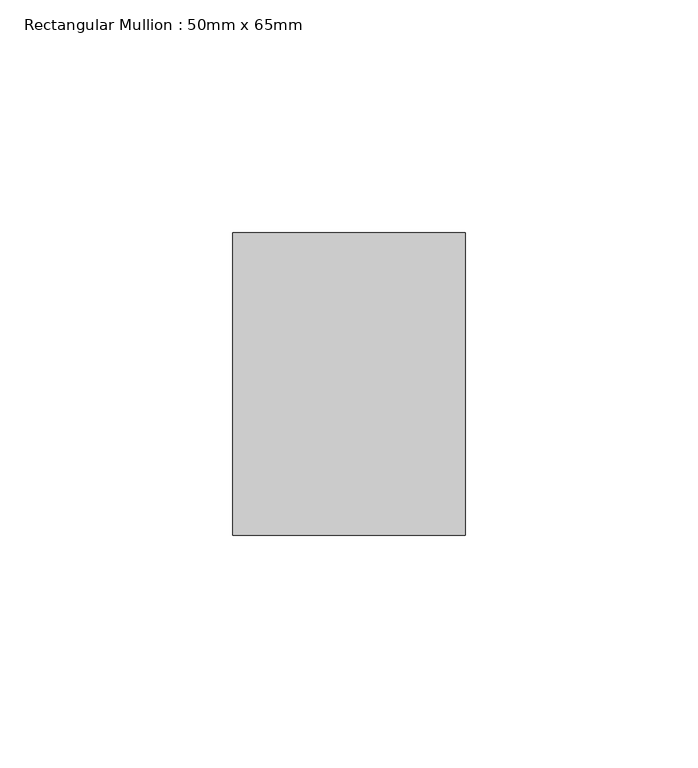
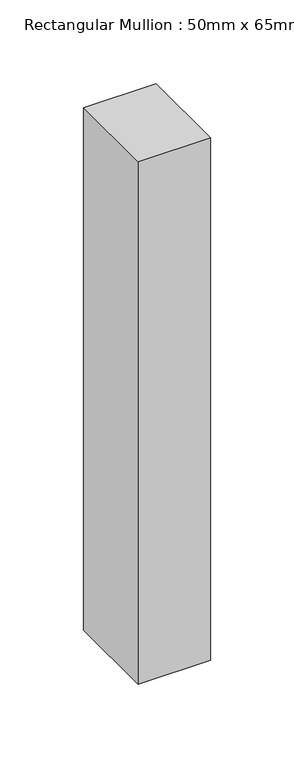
"""IFC4 building model written with IfcOpenShell, lengths in millimetres: member geometry, Rectangular Mullion : 50mm x 65mm."""

from ifc_helpers import new_model, si_unit, frame, origin, place, context, project, spatial, polyline, outline, extrude, source, transform, mapped, element, save


def rectangular_mullion_50mm_x_65mm_06ddfb15(model_context):
    return source(origin(), model_context, "Body", "SweptSolid", [
        extrude(outline(polyline([(25.0, 32.5), (25.0, -32.5), (-25.0, -32.5), (-25.0, 32.5), (25.0, 32.5)])), frame((0.0, 0.0, -380.8658889), z_axis=(0.0, 0.0, 1.0), x_axis=(1.0, 0.0, 0.0)), (0.0, 0.0, 1.0), 380.8658889),
    ])


if __name__ == "__main__":
    model = new_model("IFC4")
    model_context = context("Model", 3, world=origin())
    ifc_project = project(units=[si_unit("LENGTHUNIT", "METRE", prefix="MILLI")], contexts=[model_context])
    site = spatial("IfcSite", under=ifc_project)
    building = spatial("IfcBuilding", under=site)
    placement = place(None, origin())
    rectangular_mullion_50mm_x_65mm_shape = rectangular_mullion_50mm_x_65mm_06ddfb15(model_context)
    element("IfcMember", 1, ObjectType="Rectangular Mullion : 50mm x 65mm", at=placement, inside=building, context=model_context, shape_type="MappedRepresentation", body=[
        mapped(rectangular_mullion_50mm_x_65mm_shape, transform((0.0, 0.0, 0.0), x_axis=(1.0, 0.0, 0.0), y_axis=(0.0, 1.0, 0.0), z_axis=(0.0, 0.0, 1.0))),
    ])
    save(model, "model.ifc")
